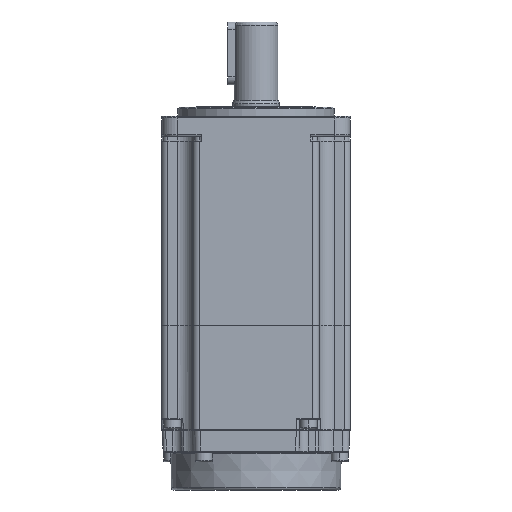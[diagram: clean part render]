
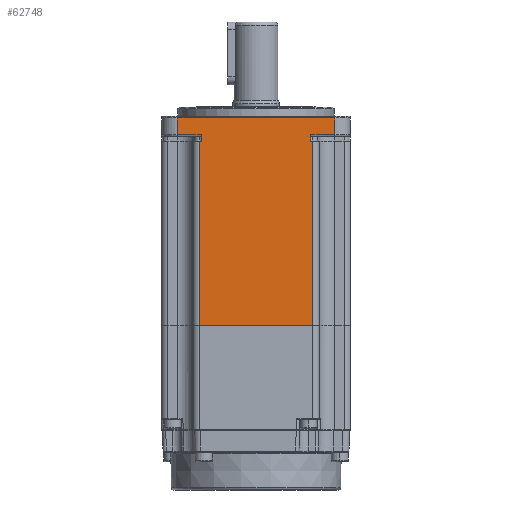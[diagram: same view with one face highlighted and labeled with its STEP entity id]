
A CAD part, front view. The second image highlights one B-rep face of the part: STEP entity #62748.
In plain terms, the highlighted planar face has unit normal (0, -1, 0).
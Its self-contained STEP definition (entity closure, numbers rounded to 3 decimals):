
#529 = CARTESIAN_POINT ( 'NONE',  ( -25.584, -39.646, 102.1 ) ) ;
#1736 = LINE ( 'NONE', #38394, #49943 ) ;
#2213 = DIRECTION ( 'NONE',  ( -1., 0., 0. ) ) ;
#3016 = DIRECTION ( 'NONE',  ( 0., 0., -1. ) ) ;
#3358 = VERTEX_POINT ( 'NONE', #29305 ) ;
#5075 = EDGE_CURVE ( 'NONE', #69356, #90317, #13146, .T. ) ;
#5544 = CARTESIAN_POINT ( 'NONE',  ( 17.016, -39.646, 95.7 ) ) ;
#5752 = LINE ( 'NONE', #40601, #93337 ) ;
#6811 = CARTESIAN_POINT ( 'NONE',  ( -17.984, -39.646, 93.7 ) ) ;
#8466 = AXIS2_PLACEMENT_3D ( 'NONE', #71484, #17576, #80844 ) ;
#12689 = VERTEX_POINT ( 'NONE', #31009 ) ;
#13146 = LINE ( 'NONE', #112101, #16004 ) ;
#16004 = VECTOR ( 'NONE', #112486, 1000. ) ;
#16167 = CARTESIAN_POINT ( 'NONE',  ( 24.616, -39.646, 95.7 ) ) ;
#16520 = VERTEX_POINT ( 'NONE', #5544 ) ;
#17576 = DIRECTION ( 'NONE',  ( 0., 1., 0. ) ) ;
#19639 = ORIENTED_EDGE ( 'NONE', *, *, #48467, .T. ) ;
#20104 = EDGE_CURVE ( 'NONE', #98005, #29208, #70918, .T. ) ;
#22570 = EDGE_CURVE ( 'NONE', #90317, #114897, #112866, .T. ) ;
#24656 = DIRECTION ( 'NONE',  ( -1., 0., 0. ) ) ;
#24985 = LINE ( 'NONE', #48203, #46315 ) ;
#25302 = DIRECTION ( 'NONE',  ( 1., 0., 0. ) ) ;
#28065 = ORIENTED_EDGE ( 'NONE', *, *, #101997, .T. ) ;
#28089 = VERTEX_POINT ( 'NONE', #6811 ) ;
#29208 = VERTEX_POINT ( 'NONE', #60750 ) ;
#29305 = CARTESIAN_POINT ( 'NONE',  ( -17.984, -39.646, 95.7 ) ) ;
#31009 = CARTESIAN_POINT ( 'NONE',  ( 17.616, -39.646, 34.9 ) ) ;
#32509 = VERTEX_POINT ( 'NONE', #55099 ) ;
#33622 = ORIENTED_EDGE ( 'NONE', *, *, #104958, .T. ) ;
#38201 = VECTOR ( 'NONE', #24656, 1000. ) ;
#38394 = CARTESIAN_POINT ( 'NONE',  ( -17.984, -39.646, 95.7 ) ) ;
#39895 = EDGE_CURVE ( 'NONE', #94255, #3358, #1736, .T. ) ;
#40601 = CARTESIAN_POINT ( 'NONE',  ( 17.016, -39.646, 102.1 ) ) ;
#40871 = VECTOR ( 'NONE', #83309, 1000. ) ;
#43779 = EDGE_CURVE ( 'NONE', #114897, #94255, #63601, .T. ) ;
#44862 = EDGE_LOOP ( 'NONE', ( #93844, #19639, #86097, #48016, #28065, #102976, #69244, #49375, #80351, #53625, #33622, #61961 ) ) ;
#46257 = CARTESIAN_POINT ( 'NONE',  ( -25.584, -39.646, 101.1 ) ) ;
#46315 = VECTOR ( 'NONE', #3016, 1000. ) ;
#46448 = LINE ( 'NONE', #92252, #70490 ) ;
#46855 = VECTOR ( 'NONE', #62277, 1000. ) ;
#48016 = ORIENTED_EDGE ( 'NONE', *, *, #73389, .T. ) ;
#48203 = CARTESIAN_POINT ( 'NONE',  ( -17.984, -39.646, 102.1 ) ) ;
#48467 = EDGE_CURVE ( 'NONE', #12689, #32509, #88120, .T. ) ;
#49375 = ORIENTED_EDGE ( 'NONE', *, *, #43779, .T. ) ;
#49796 = DIRECTION ( 'NONE',  ( 0., 0., 1. ) ) ;
#49943 = VECTOR ( 'NONE', #84143, 1000. ) ;
#53625 = ORIENTED_EDGE ( 'NONE', *, *, #54398, .T. ) ;
#54197 = LINE ( 'NONE', #16167, #75290 ) ;
#54398 = EDGE_CURVE ( 'NONE', #3358, #28089, #24985, .T. ) ;
#55099 = CARTESIAN_POINT ( 'NONE',  ( 17.616, -39.646, 93.7 ) ) ;
#56090 = DIRECTION ( 'NONE',  ( -1., 0., 0. ) ) ;
#60750 = CARTESIAN_POINT ( 'NONE',  ( -18.584, -39.646, 34.9 ) ) ;
#61368 = VECTOR ( 'NONE', #61567, 1000. ) ;
#61567 = DIRECTION ( 'NONE',  ( 0., 0., 1. ) ) ;
#61956 = CARTESIAN_POINT ( 'NONE',  ( 17.616, -39.646, 102.1 ) ) ;
#61961 = ORIENTED_EDGE ( 'NONE', *, *, #20104, .T. ) ;
#62277 = DIRECTION ( 'NONE',  ( 0., 0., -1. ) ) ;
#62317 = LINE ( 'NONE', #87876, #38201 ) ;
#62748 = ADVANCED_FACE ( 'NONE', ( #106199 ), #80447, .F. ) ;
#62929 = CARTESIAN_POINT ( 'NONE',  ( 24.616, -39.646, 101.1 ) ) ;
#63601 = LINE ( 'NONE', #529, #90356 ) ;
#65554 = CARTESIAN_POINT ( 'NONE',  ( -30.584, -39.646, 34.9 ) ) ;
#66628 = CARTESIAN_POINT ( 'NONE',  ( -18.584, -39.646, 93.7 ) ) ;
#69017 = VECTOR ( 'NONE', #2213, 1000. ) ;
#69244 = ORIENTED_EDGE ( 'NONE', *, *, #22570, .T. ) ;
#69356 = VERTEX_POINT ( 'NONE', #114723 ) ;
#70490 = VECTOR ( 'NONE', #56090, 1000. ) ;
#70918 = LINE ( 'NONE', #71014, #46855 ) ;
#71014 = CARTESIAN_POINT ( 'NONE',  ( -18.584, -39.646, 102.1 ) ) ;
#71484 = CARTESIAN_POINT ( 'NONE',  ( -30.584, -39.646, 102.1 ) ) ;
#73389 = EDGE_CURVE ( 'NONE', #85841, #16520, #5752, .T. ) ;
#75290 = VECTOR ( 'NONE', #25302, 1000. ) ;
#80351 = ORIENTED_EDGE ( 'NONE', *, *, #39895, .T. ) ;
#80447 = PLANE ( 'NONE',  #8466 ) ;
#80844 = DIRECTION ( 'NONE',  ( -1., 0., 0. ) ) ;
#80921 = EDGE_CURVE ( 'NONE', #32509, #85841, #62317, .T. ) ;
#83309 = DIRECTION ( 'NONE',  ( -1., 0., 0. ) ) ;
#84143 = DIRECTION ( 'NONE',  ( 1., 0., 0. ) ) ;
#85841 = VERTEX_POINT ( 'NONE', #115515 ) ;
#86097 = ORIENTED_EDGE ( 'NONE', *, *, #80921, .T. ) ;
#87876 = CARTESIAN_POINT ( 'NONE',  ( -30.584, -39.646, 93.7 ) ) ;
#88120 = LINE ( 'NONE', #61956, #61368 ) ;
#90317 = VERTEX_POINT ( 'NONE', #62929 ) ;
#90356 = VECTOR ( 'NONE', #91017, 1000. ) ;
#91017 = DIRECTION ( 'NONE',  ( 0., 0., -1. ) ) ;
#92252 = CARTESIAN_POINT ( 'NONE',  ( -30.584, -39.646, 93.7 ) ) ;
#92872 = LINE ( 'NONE', #65554, #69017 ) ;
#93337 = VECTOR ( 'NONE', #49796, 1000. ) ;
#93844 = ORIENTED_EDGE ( 'NONE', *, *, #114943, .F. ) ;
#94255 = VERTEX_POINT ( 'NONE', #97093 ) ;
#97093 = CARTESIAN_POINT ( 'NONE',  ( -25.584, -39.646, 95.7 ) ) ;
#98005 = VERTEX_POINT ( 'NONE', #66628 ) ;
#101474 = CARTESIAN_POINT ( 'NONE',  ( -30.584, -39.646, 101.1 ) ) ;
#101997 = EDGE_CURVE ( 'NONE', #16520, #69356, #54197, .T. ) ;
#102976 = ORIENTED_EDGE ( 'NONE', *, *, #5075, .T. ) ;
#104958 = EDGE_CURVE ( 'NONE', #28089, #98005, #46448, .T. ) ;
#106199 = FACE_OUTER_BOUND ( 'NONE', #44862, .T. ) ;
#112101 = CARTESIAN_POINT ( 'NONE',  ( 24.616, -39.646, 102.1 ) ) ;
#112486 = DIRECTION ( 'NONE',  ( 0., 0., 1. ) ) ;
#112866 = LINE ( 'NONE', #101474, #40871 ) ;
#114723 = CARTESIAN_POINT ( 'NONE',  ( 24.616, -39.646, 95.7 ) ) ;
#114897 = VERTEX_POINT ( 'NONE', #46257 ) ;
#114943 = EDGE_CURVE ( 'NONE', #12689, #29208, #92872, .T. ) ;
#115515 = CARTESIAN_POINT ( 'NONE',  ( 17.016, -39.646, 93.7 ) ) ;
